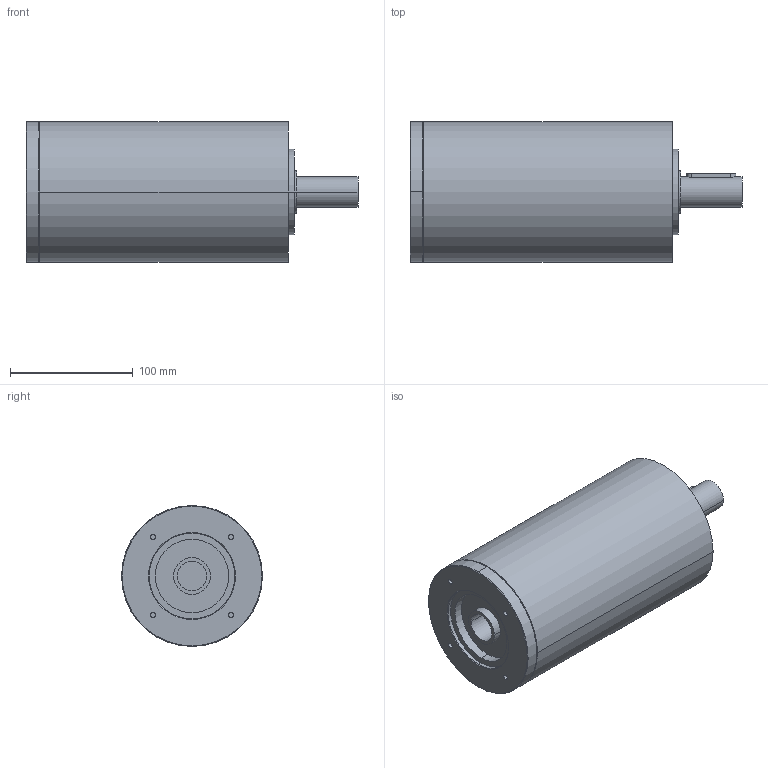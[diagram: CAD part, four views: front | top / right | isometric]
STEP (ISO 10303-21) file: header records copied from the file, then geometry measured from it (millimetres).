
FILE_DESCRIPTION(('CoCreate Modeling STEP Export'),'2;1');
FILE_NAME('GPR125_ig-48-64-80-100-140-196-245-343_25_B14_24_P15.stp','2014-08-26T14:22:35',(''),(''),'CoCreate Modeling STEP processor for AP214 (Solid Model)','CoCreate Modeling 16.00C 25-Feb-2009 (C) Parametric Technology GmbH','');
FILE_SCHEMA(('AUTOMOTIVE_DESIGN { 1 0 10303 214 1 1 1 1 }'));
Length unit declared in the file: millimetre
Products named in the file (2): GPR125_ig-48-64-80-100-140-196-245-343_25_B14_24_P15
Assembly tree (1 placements, depth 2):
  GPR125_ig-48-64-80-100-140-196-245-343_25_B14_24_P15
    GPR125_ig-48-64-80-100-140-196-245-343_25_B14_24_P15
Bounding box: 271 x 115 x 115 mm (x, y, z)
Volume: 2208508.2 mm3; surface area: 113958 mm2
Topology: 1 solids, 1 shells, 69 faces, 180 edges, 128 vertices
Faces by surface type: cylinder 38, plane 21, cone 10
Entity records: 1790 total; most frequent: ORIENTED_EDGE 356, CARTESIAN_POINT 336, DIRECTION 226, EDGE_CURVE 178, VERTEX_POINT 128, AXIS2_PLACEMENT_3D 86, EDGE_LOOP 86, FACE_OUTER_BOUND 69
